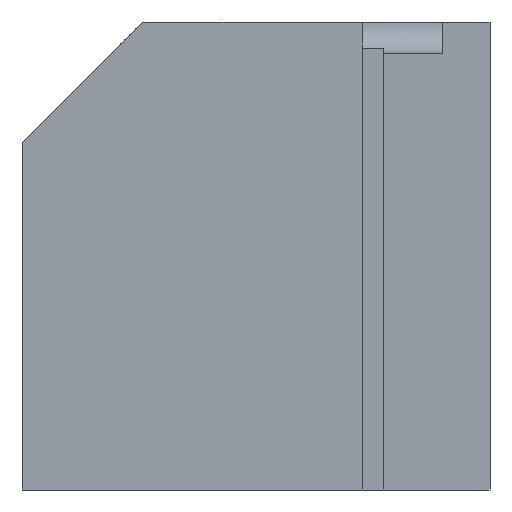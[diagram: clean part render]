
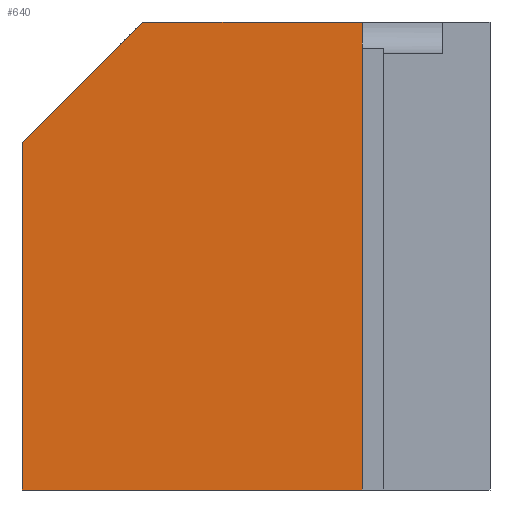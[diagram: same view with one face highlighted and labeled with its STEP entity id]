
A CAD part, front view. The second image highlights one B-rep face of the part: STEP entity #640.
In plain terms, the highlighted planar face has unit normal (0, -1, 0).
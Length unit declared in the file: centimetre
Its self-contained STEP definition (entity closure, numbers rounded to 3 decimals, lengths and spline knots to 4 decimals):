
#3 = EDGE_CURVE ( 'NONE', #244, #240, #617, .T. ) ;
#17 = LINE ( 'NONE', #798, #454 ) ;
#27 = ORIENTED_EDGE ( 'NONE', *, *, #846, .T. ) ;
#51 = VECTOR ( 'NONE', #558, 100. ) ;
#67 = CARTESIAN_POINT ( 'NONE',  ( 0., 0., 1000. ) ) ;
#72 = AXIS2_PLACEMENT_3D ( 'NONE', #776, #245, #772 ) ;
#83 = VECTOR ( 'NONE', #389, 100. ) ;
#111 = CARTESIAN_POINT ( 'NONE',  ( 726.9166, 0., 1000. ) ) ;
#116 = EDGE_LOOP ( 'NONE', ( #539, #158, #809, #27, #189 ) ) ;
#128 = LINE ( 'NONE', #329, #83 ) ;
#158 = ORIENTED_EDGE ( 'NONE', *, *, #393, .T. ) ;
#171 = VERTEX_POINT ( 'NONE', #510 ) ;
#189 = ORIENTED_EDGE ( 'NONE', *, *, #3, .T. ) ;
#221 = VERTEX_POINT ( 'NONE', #655 ) ;
#240 = VERTEX_POINT ( 'NONE', #598 ) ;
#244 = VERTEX_POINT ( 'NONE', #269 ) ;
#245 = DIRECTION ( 'NONE',  ( 0., 1., 0. ) ) ;
#260 = DIRECTION ( 'NONE',  ( 1., 0., 0. ) ) ;
#269 = CARTESIAN_POINT ( 'NONE',  ( 0., 0., 741.6929 ) ) ;
#303 = CARTESIAN_POINT ( 'NONE',  ( 0., 0., 1000. ) ) ;
#307 = LINE ( 'NONE', #67, #506 ) ;
#329 = CARTESIAN_POINT ( 'NONE',  ( 258.3071, 0., 1000. ) ) ;
#334 = VECTOR ( 'NONE', #438, 100. ) ;
#342 = DIRECTION ( 'NONE',  ( 0., 0., 1. ) ) ;
#389 = DIRECTION ( 'NONE',  ( -0.707, 0., -0.707 ) ) ;
#393 = EDGE_CURVE ( 'NONE', #221, #681, #17, .T. ) ;
#438 = DIRECTION ( 'NONE',  ( 1., 0., 0. ) ) ;
#451 = FACE_OUTER_BOUND ( 'NONE', #116, .T. ) ;
#454 = VECTOR ( 'NONE', #342, 100. ) ;
#498 = CARTESIAN_POINT ( 'NONE',  ( 0., 0., 0. ) ) ;
#506 = VECTOR ( 'NONE', #260, 100. ) ;
#510 = CARTESIAN_POINT ( 'NONE',  ( 258.3071, 0., 1000. ) ) ;
#539 = ORIENTED_EDGE ( 'NONE', *, *, #562, .T. ) ;
#558 = DIRECTION ( 'NONE',  ( 0., 0., -1. ) ) ;
#562 = EDGE_CURVE ( 'NONE', #240, #221, #747, .T. ) ;
#598 = CARTESIAN_POINT ( 'NONE',  ( 0., 0., 0. ) ) ;
#617 = LINE ( 'NONE', #303, #51 ) ;
#637 = PLANE ( 'NONE',  #72 ) ;
#640 = ADVANCED_FACE ( 'NONE', ( #451 ), #637, .F. ) ;
#655 = CARTESIAN_POINT ( 'NONE',  ( 726.9166, 0., 0. ) ) ;
#681 = VERTEX_POINT ( 'NONE', #111 ) ;
#747 = LINE ( 'NONE', #498, #334 ) ;
#772 = DIRECTION ( 'NONE',  ( 0., 0., 1. ) ) ;
#776 = CARTESIAN_POINT ( 'NONE',  ( 0., 0., 1000. ) ) ;
#798 = CARTESIAN_POINT ( 'NONE',  ( 726.9166, 0., 0. ) ) ;
#806 = EDGE_CURVE ( 'NONE', #171, #681, #307, .T. ) ;
#809 = ORIENTED_EDGE ( 'NONE', *, *, #806, .F. ) ;
#846 = EDGE_CURVE ( 'NONE', #171, #244, #128, .T. ) ;
